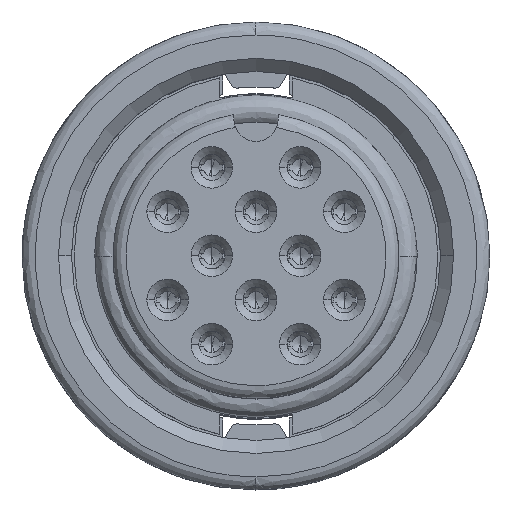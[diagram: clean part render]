
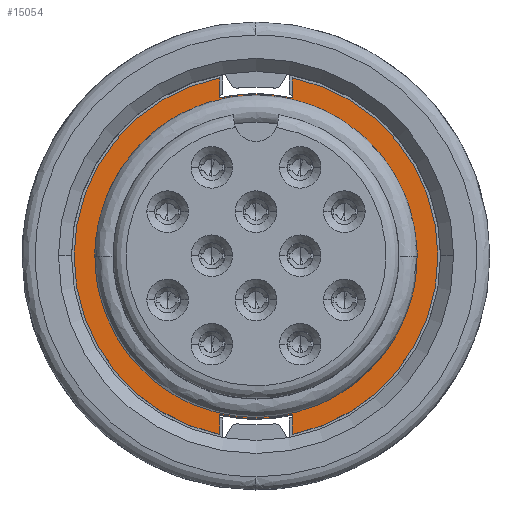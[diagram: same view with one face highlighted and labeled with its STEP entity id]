
A CAD part, top view. The second image highlights one B-rep face of the part: STEP entity #15054.
In plain terms, the highlighted planar face has unit normal (0, 0, 1).
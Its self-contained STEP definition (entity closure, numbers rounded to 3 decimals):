
#427 = ORIENTED_EDGE ( 'NONE', *, *, #31910, .T. ) ;
#947 = EDGE_CURVE ( 'NONE', #10720, #3097, #20171, .T. ) ;
#1084 = CARTESIAN_POINT ( 'NONE',  ( 0., 0., -7.8 ) ) ;
#3017 = CARTESIAN_POINT ( 'NONE',  ( -1.4, 6.091, -7.8 ) ) ;
#3097 = VERTEX_POINT ( 'NONE', #30826 ) ;
#3102 = FACE_BOUND ( 'NONE', #19358, .T. ) ;
#3337 = CARTESIAN_POINT ( 'NONE',  ( -1.4, 6.859, -7.8 ) ) ;
#3563 = CARTESIAN_POINT ( 'NONE',  ( 0., -5.5, -7.8 ) ) ;
#4306 = DIRECTION ( 'NONE',  ( 0., 0., -1. ) ) ;
#4460 = ORIENTED_EDGE ( 'NONE', *, *, #22004, .F. ) ;
#4468 = EDGE_CURVE ( 'NONE', #10720, #10662, #5338, .T. ) ;
#5165 = AXIS2_PLACEMENT_3D ( 'NONE', #25588, #28189, #17873 ) ;
#5265 = AXIS2_PLACEMENT_3D ( 'NONE', #28528, #4306, #11268 ) ;
#5338 = B_SPLINE_CURVE_WITH_KNOTS ( 'NONE', 1,
 ( #3017, #3337 ),
 .UNSPECIFIED., .F., .F.,
 ( 2, 2 ),
 ( 0., 1. ),
 .UNSPECIFIED. ) ;
#5633 = AXIS2_PLACEMENT_3D ( 'NONE', #8595, #27971, #25376 ) ;
#6245 = AXIS2_PLACEMENT_3D ( 'NONE', #1084, #17754, #10962 ) ;
#8556 = VERTEX_POINT ( 'NONE', #31777 ) ;
#8595 = CARTESIAN_POINT ( 'NONE',  ( 0., 0., -7.8 ) ) ;
#9689 = CARTESIAN_POINT ( 'NONE',  ( 1.4, 6.859, -7.8 ) ) ;
#10209 = VERTEX_POINT ( 'NONE', #3563 ) ;
#10662 = VERTEX_POINT ( 'NONE', #20966 ) ;
#10720 = VERTEX_POINT ( 'NONE', #21614 ) ;
#10765 = EDGE_CURVE ( 'NONE', #10209, #15925, #14851, .T. ) ;
#10962 = DIRECTION ( 'NONE',  ( -1., 0., 0. ) ) ;
#11023 = ORIENTED_EDGE ( 'NONE', *, *, #4468, .T. ) ;
#11268 = DIRECTION ( 'NONE',  ( -1., 0., 0. ) ) ;
#11493 = CARTESIAN_POINT ( 'NONE',  ( 1.4, -6.859, -7.8 ) ) ;
#12084 = DIRECTION ( 'NONE',  ( -1., 0., 0. ) ) ;
#12615 = CARTESIAN_POINT ( 'NONE',  ( 1.4, -6.091, -7.8 ) ) ;
#12618 = ORIENTED_EDGE ( 'NONE', *, *, #21340, .F. ) ;
#13292 = FACE_OUTER_BOUND ( 'NONE', #29167, .T. ) ;
#13631 = ORIENTED_EDGE ( 'NONE', *, *, #17159, .F. ) ;
#14671 = ORIENTED_EDGE ( 'NONE', *, *, #22584, .T. ) ;
#14747 = ORIENTED_EDGE ( 'NONE', *, *, #947, .F. ) ;
#14851 = CIRCLE ( 'NONE', #21572, 5.5 ) ;
#15054 = ADVANCED_FACE ( 'NONE', ( #13292, #3102 ), #30724, .T. ) ;
#15925 = VERTEX_POINT ( 'NONE', #16221 ) ;
#16221 = CARTESIAN_POINT ( 'NONE',  ( 0., 5.5, -7.8 ) ) ;
#16332 = ORIENTED_EDGE ( 'NONE', *, *, #19965, .F. ) ;
#16517 = CARTESIAN_POINT ( 'NONE',  ( 0., 0., -7.8 ) ) ;
#16753 = CARTESIAN_POINT ( 'NONE',  ( 0., 0., -7.8 ) ) ;
#17159 = EDGE_CURVE ( 'NONE', #28048, #10662, #19711, .T. ) ;
#17420 = VERTEX_POINT ( 'NONE', #12615 ) ;
#17749 = CARTESIAN_POINT ( 'NONE',  ( 1.4, 6.091, -7.8 ) ) ;
#17754 = DIRECTION ( 'NONE',  ( 0., 0., -1. ) ) ;
#17873 = DIRECTION ( 'NONE',  ( -1., 0., 0. ) ) ;
#17926 = B_SPLINE_CURVE_WITH_KNOTS ( 'NONE', 1,
 ( #21977, #21660 ),
 .UNSPECIFIED., .F., .F.,
 ( 2, 2 ),
 ( 0., 1. ),
 .UNSPECIFIED. ) ;
#17990 = CARTESIAN_POINT ( 'NONE',  ( 1.4, -6.091, -7.8 ) ) ;
#18974 = B_SPLINE_CURVE_WITH_KNOTS ( 'NONE', 1,
 ( #23145, #17990 ),
 .UNSPECIFIED., .F., .F.,
 ( 2, 2 ),
 ( 0., 1. ),
 .UNSPECIFIED. ) ;
#19120 = DIRECTION ( 'NONE',  ( 0., 0., -1. ) ) ;
#19358 = EDGE_LOOP ( 'NONE', ( #22030, #427 ) ) ;
#19711 = CIRCLE ( 'NONE', #5265, 7. ) ;
#19965 = EDGE_CURVE ( 'NONE', #20115, #31207, #20305, .T. ) ;
#20115 = VERTEX_POINT ( 'NONE', #22630 ) ;
#20171 = CIRCLE ( 'NONE', #6245, 6.25 ) ;
#20305 = CIRCLE ( 'NONE', #27500, 7. ) ;
#20966 = CARTESIAN_POINT ( 'NONE',  ( -1.4, 6.859, -7.8 ) ) ;
#21340 = EDGE_CURVE ( 'NONE', #3097, #20115, #30675, .T. ) ;
#21373 = DIRECTION ( 'NONE',  ( -1., 0., 0. ) ) ;
#21572 = AXIS2_PLACEMENT_3D ( 'NONE', #16753, #24641, #12084 ) ;
#21614 = CARTESIAN_POINT ( 'NONE',  ( -1.4, 6.091, -7.8 ) ) ;
#21660 = CARTESIAN_POINT ( 'NONE',  ( -1.4, -6.091, -7.8 ) ) ;
#21977 = CARTESIAN_POINT ( 'NONE',  ( -1.4, -6.859, -7.8 ) ) ;
#22004 = EDGE_CURVE ( 'NONE', #17420, #8556, #22181, .T. ) ;
#22030 = ORIENTED_EDGE ( 'NONE', *, *, #10765, .T. ) ;
#22181 = CIRCLE ( 'NONE', #5165, 6.25 ) ;
#22584 = EDGE_CURVE ( 'NONE', #28048, #8556, #17926, .T. ) ;
#22630 = CARTESIAN_POINT ( 'NONE',  ( 1.4, 6.859, -7.8 ) ) ;
#23145 = CARTESIAN_POINT ( 'NONE',  ( 1.4, -6.859, -7.8 ) ) ;
#23467 = DIRECTION ( 'NONE',  ( -1., 0., 0. ) ) ;
#24238 = CARTESIAN_POINT ( 'NONE',  ( 0., 0., -7.8 ) ) ;
#24641 = DIRECTION ( 'NONE',  ( 0., 0., -1. ) ) ;
#25376 = DIRECTION ( 'NONE',  ( 1., 0., 0. ) ) ;
#25588 = CARTESIAN_POINT ( 'NONE',  ( 0., 0., -7.8 ) ) ;
#26112 = AXIS2_PLACEMENT_3D ( 'NONE', #16517, #19120, #23467 ) ;
#26572 = EDGE_CURVE ( 'NONE', #31207, #17420, #18974, .T. ) ;
#26825 = DIRECTION ( 'NONE',  ( 0., 0., -1. ) ) ;
#27500 = AXIS2_PLACEMENT_3D ( 'NONE', #24238, #26825, #21373 ) ;
#27971 = DIRECTION ( 'NONE',  ( 0., 0., 1. ) ) ;
#28048 = VERTEX_POINT ( 'NONE', #29893 ) ;
#28186 = CIRCLE ( 'NONE', #26112, 5.5 ) ;
#28189 = DIRECTION ( 'NONE',  ( 0., 0., -1. ) ) ;
#28528 = CARTESIAN_POINT ( 'NONE',  ( 0., 0., -7.8 ) ) ;
#29167 = EDGE_LOOP ( 'NONE', ( #31117, #16332, #12618, #14747, #11023, #13631, #14671, #4460 ) ) ;
#29893 = CARTESIAN_POINT ( 'NONE',  ( -1.4, -6.859, -7.8 ) ) ;
#30675 = B_SPLINE_CURVE_WITH_KNOTS ( 'NONE', 1,
 ( #17749, #9689 ),
 .UNSPECIFIED., .F., .F.,
 ( 2, 2 ),
 ( 0., 1. ),
 .UNSPECIFIED. ) ;
#30724 = PLANE ( 'NONE',  #5633 ) ;
#30826 = CARTESIAN_POINT ( 'NONE',  ( 1.4, 6.091, -7.8 ) ) ;
#31117 = ORIENTED_EDGE ( 'NONE', *, *, #26572, .F. ) ;
#31207 = VERTEX_POINT ( 'NONE', #11493 ) ;
#31777 = CARTESIAN_POINT ( 'NONE',  ( -1.4, -6.091, -7.8 ) ) ;
#31910 = EDGE_CURVE ( 'NONE', #15925, #10209, #28186, .T. ) ;
